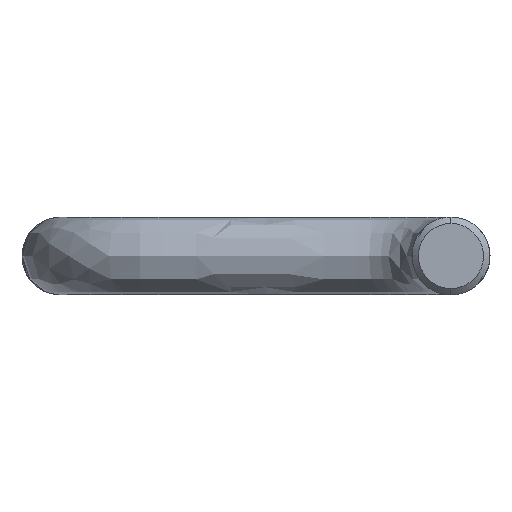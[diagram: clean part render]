
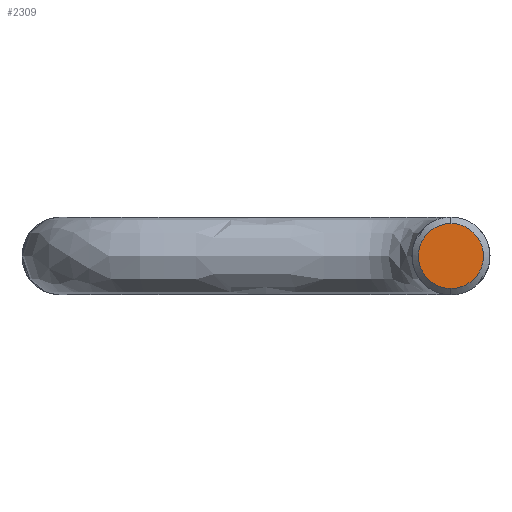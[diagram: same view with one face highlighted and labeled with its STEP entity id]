
A CAD part, front view. The second image highlights one B-rep face of the part: STEP entity #2309.
In plain terms, the highlighted planar face has unit normal (0, -1, 0).
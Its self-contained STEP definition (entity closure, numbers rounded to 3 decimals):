
#112 = VERTEX_POINT ( 'NONE', #3133 ) ;
#118 = CARTESIAN_POINT ( 'NONE',  ( -2.506, 0., -4.339 ) ) ;
#153 = CARTESIAN_POINT ( 'NONE',  ( -3.767, 0., 3.304 ) ) ;
#168 = CARTESIAN_POINT ( 'NONE',  ( 0.655, 0., -4.967 ) ) ;
#171 = CARTESIAN_POINT ( 'NONE',  ( -4.333, 0., -2.501 ) ) ;
#191 = CARTESIAN_POINT ( 'NONE',  ( -0.654, 0., 4.96 ) ) ;
#245 = CARTESIAN_POINT ( 'NONE',  ( 4.367, 0., -2.524 ) ) ;
#406 = CARTESIAN_POINT ( 'NONE',  ( -1.298, 0., 4.84 ) ) ;
#426 = CARTESIAN_POINT ( 'NONE',  ( -0.002, 0., -5. ) ) ;
#462 = CARTESIAN_POINT ( 'NONE',  ( -1.61, 0., 4.745 ) ) ;
#479 = CARTESIAN_POINT ( 'NONE',  ( 0.326, 0., -5. ) ) ;
#567 = EDGE_CURVE ( 'NONE', #1489, #112, #3535, .T. ) ;
#591 = B_SPLINE_CURVE_WITH_KNOTS ( 'NONE', 3,
 ( #3444, #479, #168, #1321, #1603, #3519, #3499, #1017, #1831, #2120, #245, #2082, #1072, #2926, #734, #2431, #1795, #3213, #1547, #2944, #1054, #1566 ),
 .UNSPECIFIED., .F., .F.,
 ( 4, 2, 2, 2, 2, 2, 2, 2, 2, 2, 4 ),
 ( 0., 0.063, 0.094, 0.125, 0.25, 0.375, 0.5, 0.625, 0.75, 0.875, 1. ),
 .UNSPECIFIED. ) ;
#698 = CARTESIAN_POINT ( 'NONE',  ( -3.421, 0., -3.65 ) ) ;
#734 = CARTESIAN_POINT ( 'NONE',  ( 4.872, 0., 1.306 ) ) ;
#755 = CARTESIAN_POINT ( 'NONE',  ( -3.769, 0., -3.302 ) ) ;
#948 = CARTESIAN_POINT ( 'NONE',  ( -0.33, 0., -5. ) ) ;
#965 = CARTESIAN_POINT ( 'NONE',  ( -4.968, 0., -0.653 ) ) ;
#975 = EDGE_LOOP ( 'NONE', ( #2832, #1223 ) ) ;
#1017 = CARTESIAN_POINT ( 'NONE',  ( 2.528, 0., -4.364 ) ) ;
#1054 = CARTESIAN_POINT ( 'NONE',  ( 0.663, 0., 5. ) ) ;
#1072 = CARTESIAN_POINT ( 'NONE',  ( 5., 0., -0.659 ) ) ;
#1214 = CARTESIAN_POINT ( 'NONE',  ( -2.219, 0., -4.492 ) ) ;
#1221 = DIRECTION ( 'NONE',  ( 1., 0., 0. ) ) ;
#1223 = ORIENTED_EDGE ( 'NONE', *, *, #3208, .T. ) ;
#1231 = CARTESIAN_POINT ( 'NONE',  ( -4.248, 0., 2.642 ) ) ;
#1267 = CARTESIAN_POINT ( 'NONE',  ( -3.047, 0., -3.968 ) ) ;
#1287 = CARTESIAN_POINT ( 'NONE',  ( -2.519, 0., 4.369 ) ) ;
#1321 = CARTESIAN_POINT ( 'NONE',  ( 1.14, 0., -4.871 ) ) ;
#1471 = PLANE ( 'NONE',  #3104 ) ;
#1489 = VERTEX_POINT ( 'NONE', #3409 ) ;
#1495 = CARTESIAN_POINT ( 'NONE',  ( 0., 0., 5. ) ) ;
#1513 = CARTESIAN_POINT ( 'NONE',  ( -4.936, 0., 0.816 ) ) ;
#1531 = CARTESIAN_POINT ( 'NONE',  ( -4.745, 0., -1.61 ) ) ;
#1547 = CARTESIAN_POINT ( 'NONE',  ( 2.524, 0., 4.367 ) ) ;
#1566 = CARTESIAN_POINT ( 'NONE',  ( 0., 0., 5. ) ) ;
#1603 = CARTESIAN_POINT ( 'NONE',  ( 1.299, 0., -4.831 ) ) ;
#1778 = CARTESIAN_POINT ( 'NONE',  ( -3.3, 0., -3.76 ) ) ;
#1786 = CARTESIAN_POINT ( 'NONE',  ( 0., 0., 0. ) ) ;
#1795 = CARTESIAN_POINT ( 'NONE',  ( 4.001, 0., 3.07 ) ) ;
#1798 = CARTESIAN_POINT ( 'NONE',  ( -5., 0., -0.328 ) ) ;
#1831 = CARTESIAN_POINT ( 'NONE',  ( 3.069, 0., -4.002 ) ) ;
#1835 = CARTESIAN_POINT ( 'NONE',  ( -5., 0., 0.162 ) ) ;
#2049 = CARTESIAN_POINT ( 'NONE',  ( -0.328, 0., 4.992 ) ) ;
#2067 = CARTESIAN_POINT ( 'NONE',  ( -4.558, 0., 2.063 ) ) ;
#2082 = CARTESIAN_POINT ( 'NONE',  ( 4.874, 0., -1.299 ) ) ;
#2085 = CARTESIAN_POINT ( 'NONE',  ( -4.992, 0., 0.328 ) ) ;
#2104 = CARTESIAN_POINT ( 'NONE',  ( -3.976, 0., -3.05 ) ) ;
#2120 = CARTESIAN_POINT ( 'NONE',  ( 4.005, 0., -3.066 ) ) ;
#2301 = CARTESIAN_POINT ( 'NONE',  ( -1.298, 0., -4.84 ) ) ;
#2309 = ADVANCED_FACE ( 'NONE', ( #3148 ), #1471, .F. ) ;
#2319 = CARTESIAN_POINT ( 'NONE',  ( -0.164, 0., 5. ) ) ;
#2337 = CARTESIAN_POINT ( 'NONE',  ( -3.073, 0., 3.998 ) ) ;
#2376 = CARTESIAN_POINT ( 'NONE',  ( -4.745, 0., 1.61 ) ) ;
#2431 = CARTESIAN_POINT ( 'NONE',  ( 4.364, 0., 2.529 ) ) ;
#2571 = CARTESIAN_POINT ( 'NONE',  ( -4.487, 0., 2.213 ) ) ;
#2587 = CARTESIAN_POINT ( 'NONE',  ( -4.333, 0., 2.501 ) ) ;
#2624 = CARTESIAN_POINT ( 'NONE',  ( -4.487, 0., -2.212 ) ) ;
#2832 = ORIENTED_EDGE ( 'NONE', *, *, #567, .T. ) ;
#2855 = CARTESIAN_POINT ( 'NONE',  ( -0.818, 0., 4.935 ) ) ;
#2874 = CARTESIAN_POINT ( 'NONE',  ( -1.613, 0., -4.744 ) ) ;
#2881 = DIRECTION ( 'NONE',  ( 0., 1., 0. ) ) ;
#2926 = CARTESIAN_POINT ( 'NONE',  ( 5., 0., 0.666 ) ) ;
#2928 = CARTESIAN_POINT ( 'NONE',  ( -2.913, 0., -4.067 ) ) ;
#2944 = CARTESIAN_POINT ( 'NONE',  ( 1.3, 0., 4.873 ) ) ;
#3104 = AXIS2_PLACEMENT_3D ( 'NONE', #1786, #2881, #1221 ) ;
#3133 = CARTESIAN_POINT ( 'NONE',  ( -0.002, 0., -5. ) ) ;
#3141 = CARTESIAN_POINT ( 'NONE',  ( -4.557, 0., -2.064 ) ) ;
#3148 = FACE_OUTER_BOUND ( 'NONE', #975, .T. ) ;
#3159 = CARTESIAN_POINT ( 'NONE',  ( -4.96, 0., 0.654 ) ) ;
#3178 = CARTESIAN_POINT ( 'NONE',  ( -4.84, 0., -1.296 ) ) ;
#3196 = CARTESIAN_POINT ( 'NONE',  ( -4.248, 0., -2.642 ) ) ;
#3208 = EDGE_CURVE ( 'NONE', #112, #1489, #591, .T. ) ;
#3213 = CARTESIAN_POINT ( 'NONE',  ( 3.065, 0., 4.005 ) ) ;
#3391 = CARTESIAN_POINT ( 'NONE',  ( -0.655, 0., -4.968 ) ) ;
#3409 = CARTESIAN_POINT ( 'NONE',  ( 0., 0., 5. ) ) ;
#3410 = CARTESIAN_POINT ( 'NONE',  ( -4.839, 0., 1.299 ) ) ;
#3444 = CARTESIAN_POINT ( 'NONE',  ( -0.002, 0., -5. ) ) ;
#3447 = CARTESIAN_POINT ( 'NONE',  ( -3.975, 0., 3.051 ) ) ;
#3499 = CARTESIAN_POINT ( 'NONE',  ( 1.764, 0., -4.681 ) ) ;
#3519 = CARTESIAN_POINT ( 'NONE',  ( 1.612, 0., -4.736 ) ) ;
#3535 = B_SPLINE_CURVE_WITH_KNOTS ( 'NONE', 3,
 ( #1495, #2319, #2049, #191, #2855, #406, #462, #1287, #2337, #153, #3447, #1231, #2587, #2571, #2067, #2376, #3410, #1513, #3159, #2085, #1835, #1798, #965, #3178, #1531, #3141, #2624, #171, #3196, #2104, #755, #698, #1778, #1267, #2928, #118, #1214, #2874, #2301, #3391, #948, #426 ),
 .UNSPECIFIED., .F., .F.,
 ( 4, 2, 2, 2, 2, 2, 2, 2, 2, 2, 2, 2, 2, 2, 2, 2, 2, 2, 2, 2, 4 ),
 ( 0., 0.031, 0.063, 0.125, 0.25, 0.313, 0.344, 0.375, 0.438, 0.469, 0.5, 0.563, 0.625, 0.656, 0.688, 0.75, 0.781, 0.813, 0.875, 0.938, 1. ),
 .UNSPECIFIED. ) ;
